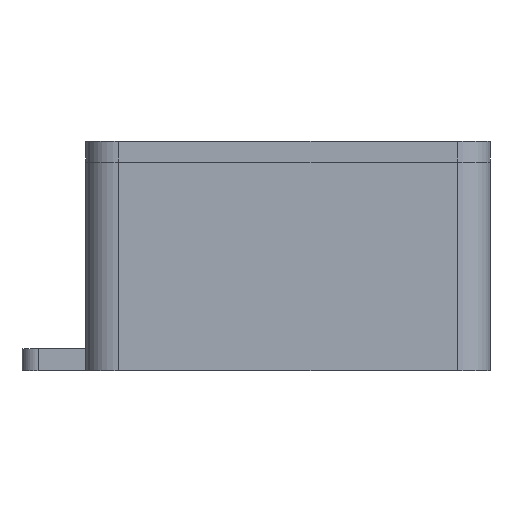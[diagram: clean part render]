
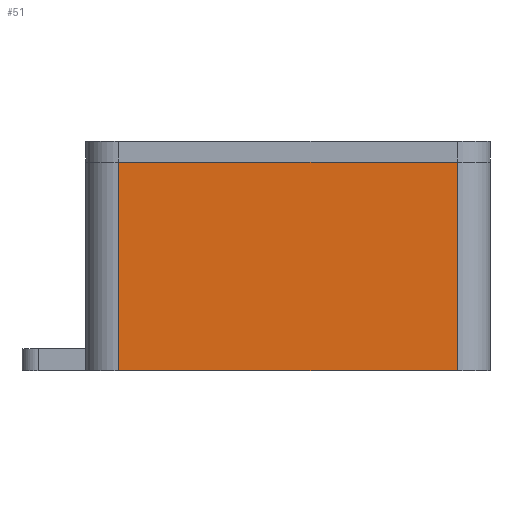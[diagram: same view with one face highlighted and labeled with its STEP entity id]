
A CAD part, left-side view. The second image highlights one B-rep face of the part: STEP entity #51.
In plain terms, the highlighted planar face has unit normal (-1, 0, 0).
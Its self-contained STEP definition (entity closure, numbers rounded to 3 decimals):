
#51 = ADVANCED_FACE('',(#52),#66,.F.);
#52 = FACE_BOUND('',#53,.F.);
#53 = EDGE_LOOP('',(#54,#89,#117,#145));
#54 = ORIENTED_EDGE('',*,*,#55,.F.);
#55 = EDGE_CURVE('',#56,#58,#60,.T.);
#56 = VERTEX_POINT('',#57);
#57 = CARTESIAN_POINT('',(-43.,-26.,32.));
#58 = VERTEX_POINT('',#59);
#59 = CARTESIAN_POINT('',(-43.,26.,32.));
#60 = SURFACE_CURVE('',#61,(#65,#77),.PCURVE_S1.);
#61 = LINE('',#62,#63);
#62 = CARTESIAN_POINT('',(-43.,-31.,32.));
#63 = VECTOR('',#64,1.);
#64 = DIRECTION('',(0.,1.,0.));
#65 = PCURVE('',#66,#71);
#66 = PLANE('',#67);
#67 = AXIS2_PLACEMENT_3D('',#68,#69,#70);
#68 = CARTESIAN_POINT('',(-43.,-31.,0.));
#69 = DIRECTION('',(1.,0.,0.));
#70 = DIRECTION('',(0.,0.,1.));
#71 = DEFINITIONAL_REPRESENTATION('',(#72),#76);
#72 = LINE('',#73,#74);
#73 = CARTESIAN_POINT('',(32.,0.));
#74 = VECTOR('',#75,1.);
#75 = DIRECTION('',(0.,-1.));
#76 = ( GEOMETRIC_REPRESENTATION_CONTEXT(2) 
PARAMETRIC_REPRESENTATION_CONTEXT() REPRESENTATION_CONTEXT('2D SPACE',''
  ) );
#77 = PCURVE('',#78,#83);
#78 = PLANE('',#79);
#79 = AXIS2_PLACEMENT_3D('',#80,#81,#82);
#80 = CARTESIAN_POINT('',(-43.,-31.,32.));
#81 = DIRECTION('',(0.,0.,1.));
#82 = DIRECTION('',(1.,0.,0.));
#83 = DEFINITIONAL_REPRESENTATION('',(#84),#88);
#84 = LINE('',#85,#86);
#85 = CARTESIAN_POINT('',(0.,0.));
#86 = VECTOR('',#87,1.);
#87 = DIRECTION('',(0.,1.));
#88 = ( GEOMETRIC_REPRESENTATION_CONTEXT(2) 
PARAMETRIC_REPRESENTATION_CONTEXT() REPRESENTATION_CONTEXT('2D SPACE',''
  ) );
#89 = ORIENTED_EDGE('',*,*,#90,.F.);
#90 = EDGE_CURVE('',#91,#56,#93,.T.);
#91 = VERTEX_POINT('',#92);
#92 = CARTESIAN_POINT('',(-43.,-26.,0.));
#93 = SURFACE_CURVE('',#94,(#98,#105),.PCURVE_S1.);
#94 = LINE('',#95,#96);
#95 = CARTESIAN_POINT('',(-43.,-26.,0.));
#96 = VECTOR('',#97,1.);
#97 = DIRECTION('',(0.,0.,1.));
#98 = PCURVE('',#66,#99);
#99 = DEFINITIONAL_REPRESENTATION('',(#100),#104);
#100 = LINE('',#101,#102);
#101 = CARTESIAN_POINT('',(0.,-5.));
#102 = VECTOR('',#103,1.);
#103 = DIRECTION('',(1.,0.));
#104 = ( GEOMETRIC_REPRESENTATION_CONTEXT(2) 
PARAMETRIC_REPRESENTATION_CONTEXT() REPRESENTATION_CONTEXT('2D SPACE',''
  ) );
#105 = PCURVE('',#106,#111);
#106 = CYLINDRICAL_SURFACE('',#107,5.);
#107 = AXIS2_PLACEMENT_3D('',#108,#109,#110);
#108 = CARTESIAN_POINT('',(-38.,-26.,0.));
#109 = DIRECTION('',(0.,0.,1.));
#110 = DIRECTION('',(-1.,-0.,0.));
#111 = DEFINITIONAL_REPRESENTATION('',(#112),#116);
#112 = LINE('',#113,#114);
#113 = CARTESIAN_POINT('',(0.,0.));
#114 = VECTOR('',#115,1.);
#115 = DIRECTION('',(0.,1.));
#116 = ( GEOMETRIC_REPRESENTATION_CONTEXT(2) 
PARAMETRIC_REPRESENTATION_CONTEXT() REPRESENTATION_CONTEXT('2D SPACE',''
  ) );
#117 = ORIENTED_EDGE('',*,*,#118,.T.);
#118 = EDGE_CURVE('',#91,#119,#121,.T.);
#119 = VERTEX_POINT('',#120);
#120 = CARTESIAN_POINT('',(-43.,26.,0.));
#121 = SURFACE_CURVE('',#122,(#126,#133),.PCURVE_S1.);
#122 = LINE('',#123,#124);
#123 = CARTESIAN_POINT('',(-43.,-31.,0.));
#124 = VECTOR('',#125,1.);
#125 = DIRECTION('',(0.,1.,0.));
#126 = PCURVE('',#66,#127);
#127 = DEFINITIONAL_REPRESENTATION('',(#128),#132);
#128 = LINE('',#129,#130);
#129 = CARTESIAN_POINT('',(0.,0.));
#130 = VECTOR('',#131,1.);
#131 = DIRECTION('',(0.,-1.));
#132 = ( GEOMETRIC_REPRESENTATION_CONTEXT(2) 
PARAMETRIC_REPRESENTATION_CONTEXT() REPRESENTATION_CONTEXT('2D SPACE',''
  ) );
#133 = PCURVE('',#134,#139);
#134 = PLANE('',#135);
#135 = AXIS2_PLACEMENT_3D('',#136,#137,#138);
#136 = CARTESIAN_POINT('',(-43.,-31.,0.));
#137 = DIRECTION('',(0.,0.,1.));
#138 = DIRECTION('',(1.,0.,0.));
#139 = DEFINITIONAL_REPRESENTATION('',(#140),#144);
#140 = LINE('',#141,#142);
#141 = CARTESIAN_POINT('',(0.,0.));
#142 = VECTOR('',#143,1.);
#143 = DIRECTION('',(0.,1.));
#144 = ( GEOMETRIC_REPRESENTATION_CONTEXT(2) 
PARAMETRIC_REPRESENTATION_CONTEXT() REPRESENTATION_CONTEXT('2D SPACE',''
  ) );
#145 = ORIENTED_EDGE('',*,*,#146,.T.);
#146 = EDGE_CURVE('',#119,#58,#147,.T.);
#147 = SURFACE_CURVE('',#148,(#152,#159),.PCURVE_S1.);
#148 = LINE('',#149,#150);
#149 = CARTESIAN_POINT('',(-43.,26.,0.));
#150 = VECTOR('',#151,1.);
#151 = DIRECTION('',(0.,0.,1.));
#152 = PCURVE('',#66,#153);
#153 = DEFINITIONAL_REPRESENTATION('',(#154),#158);
#154 = LINE('',#155,#156);
#155 = CARTESIAN_POINT('',(0.,-57.));
#156 = VECTOR('',#157,1.);
#157 = DIRECTION('',(1.,0.));
#158 = ( GEOMETRIC_REPRESENTATION_CONTEXT(2) 
PARAMETRIC_REPRESENTATION_CONTEXT() REPRESENTATION_CONTEXT('2D SPACE',''
  ) );
#159 = PCURVE('',#160,#165);
#160 = CYLINDRICAL_SURFACE('',#161,5.);
#161 = AXIS2_PLACEMENT_3D('',#162,#163,#164);
#162 = CARTESIAN_POINT('',(-38.,26.,0.));
#163 = DIRECTION('',(0.,0.,1.));
#164 = DIRECTION('',(-1.,-0.,0.));
#165 = DEFINITIONAL_REPRESENTATION('',(#166),#170);
#166 = LINE('',#167,#168);
#167 = CARTESIAN_POINT('',(-0.,0.));
#168 = VECTOR('',#169,1.);
#169 = DIRECTION('',(-0.,1.));
#170 = ( GEOMETRIC_REPRESENTATION_CONTEXT(2) 
PARAMETRIC_REPRESENTATION_CONTEXT() REPRESENTATION_CONTEXT('2D SPACE',''
  ) );
